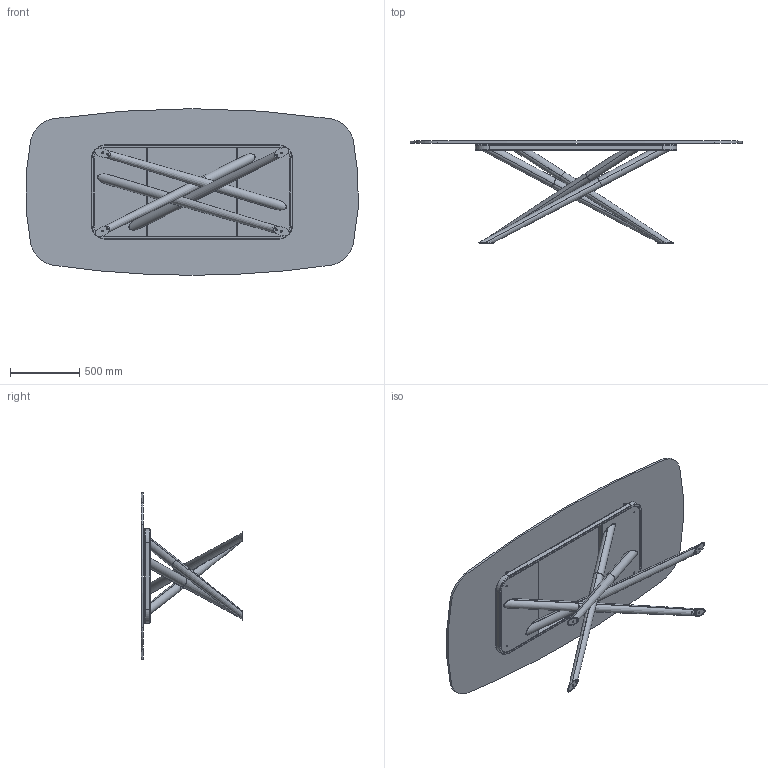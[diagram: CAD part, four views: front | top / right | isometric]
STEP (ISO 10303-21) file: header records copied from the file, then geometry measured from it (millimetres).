
FILE_DESCRIPTION (( 'STEP AP203' ), '1' );
FILE_NAME ('BA43G.STEP', '2024-08-08T06:06:41', ( '' ), ( '' ), 'SwSTEP 2.0', 'SolidWorks 2022', '' );
FILE_SCHEMA (( 'CONFIG_CONTROL_DESIGN' ));
Length unit declared in the file: millimetre
Products named in the file (9): BAB100000_03-00-Telaio BALY L240_Default<A macchina>; BAB100000-00-BALY BASE GREZZA L240 rettangolare; BAB100000_02-00-piede per baly 240; C4XCRXX-00-Piani Sagomati in Cristallo_2400 x 1200; 434070-00-PIEDINO TPV GOMMA NERO D. 30x8max18; BA43G; TR Fastenings Ltd-M6_M6; M6xXXmm_HEX_M6x30mm HEX; BAB100000_01-00-Gambe saldate BALY 240_Default<A macchina>
Assembly tree (24 placements, depth 3):
  BA43G
    C4XCRXX-00-Piani Sagomati in Cristallo_2400 x 1200
    BAB100000-00-BALY BASE GREZZA L240 rettangolare
      BAB100000_01-00-Gambe saldate BALY 240_Default<A macchina>
      BAB100000_03-00-Telaio BALY L240_Default<A macchina>
      BAB100000_02-00-piede per baly 240  x4
      TR Fastenings Ltd-M6_M6  x2
      M6xXXmm_HEX_M6x30mm HEX  x8
    434070-00-PIEDINO TPV GOMMA NERO D. 30x8max18  x6
Bounding box: 2391.62 x 734 x 1200 mm (x, y, z)
Volume: 45661899.2 mm3; surface area: 9651428.2 mm2
Topology: 39 solids, 39 shells, 685 faces, 1383 edges, 770 vertices
Faces by surface type: plane 310, cylinder 197, cone 88, torus 72, bspline 18
Entity records: 10372 total; most frequent: CARTESIAN_POINT 1745, DIRECTION 1647, ORIENTED_EDGE 1402, EDGE_CURVE 701, AXIS2_PLACEMENT_3D 647, VERTEX_POINT 401, EDGE_LOOP 374, LINE 353
